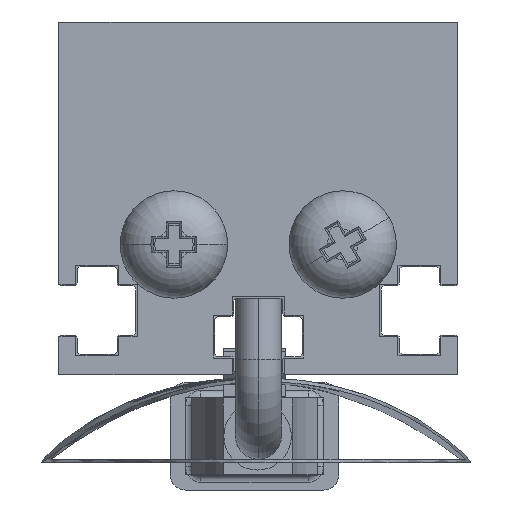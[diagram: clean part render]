
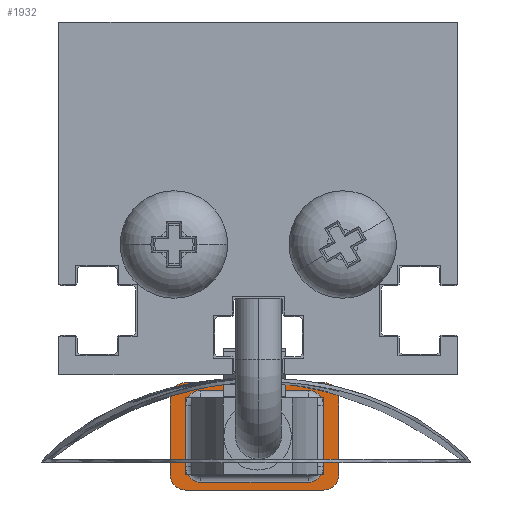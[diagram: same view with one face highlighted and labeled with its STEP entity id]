
A CAD part, left-side view. The second image highlights one B-rep face of the part: STEP entity #1932.
In plain terms, the highlighted planar face has unit normal (-1, 0, 0).
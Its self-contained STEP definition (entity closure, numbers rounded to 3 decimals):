
#1932=ADVANCED_FACE('NONE',(#4039,#4040),#4041,.F.);
#4039=FACE_OUTER_BOUND('',#6624,.T.);
#4040=FACE_BOUND('',#6625,.T.);
#4041=PLANE('',#6626);
#6624=EDGE_LOOP('',(#12249,#12250,#12251,#12252,#12253,#12254,#12255,#12256,#12257,#12258,#12259,#12260));
#6625=EDGE_LOOP('',(#12261,#12262,#12263,#12264,#12265,#12266,#12267,#12268));
#6626=AXIS2_PLACEMENT_3D('',#12269,#12270,#12271);
#12249=ORIENTED_EDGE('',*,*,#17519,.T.);
#12250=ORIENTED_EDGE('',*,*,#17321,.T.);
#12251=ORIENTED_EDGE('',*,*,#17527,.F.);
#12252=ORIENTED_EDGE('',*,*,#17316,.T.);
#12253=ORIENTED_EDGE('',*,*,#17540,.F.);
#12254=ORIENTED_EDGE('',*,*,#17363,.T.);
#12255=ORIENTED_EDGE('',*,*,#17538,.F.);
#12256=ORIENTED_EDGE('',*,*,#17372,.F.);
#12257=ORIENTED_EDGE('',*,*,#17522,.F.);
#12258=ORIENTED_EDGE('',*,*,#17313,.T.);
#12259=ORIENTED_EDGE('',*,*,#17530,.T.);
#12260=ORIENTED_EDGE('',*,*,#17308,.T.);
#12261=ORIENTED_EDGE('',*,*,#17337,.F.);
#12262=ORIENTED_EDGE('',*,*,#17327,.T.);
#12263=ORIENTED_EDGE('',*,*,#17340,.F.);
#12264=ORIENTED_EDGE('',*,*,#17348,.T.);
#12265=ORIENTED_EDGE('',*,*,#17356,.F.);
#12266=ORIENTED_EDGE('',*,*,#17359,.T.);
#12267=ORIENTED_EDGE('',*,*,#17353,.F.);
#12268=ORIENTED_EDGE('',*,*,#17345,.T.);
#12269=CARTESIAN_POINT('',(11.0,9.5,3.5));
#12270=DIRECTION('',(1.0,0.0,0.0));
#12271=DIRECTION('',(0.0,1.0,0.0));
#17308=EDGE_CURVE('NONE',#21365,#21363,#21366,.T.);
#17313=EDGE_CURVE('NONE',#21374,#21372,#21375,.T.);
#17316=EDGE_CURVE('NONE',#21378,#21379,#21380,.T.);
#17321=EDGE_CURVE('NONE',#21387,#21388,#21389,.T.);
#17327=EDGE_CURVE('NONE',#21399,#21397,#21400,.T.);
#17337=EDGE_CURVE('NONE',#21399,#21413,#21417,.T.);
#17340=EDGE_CURVE('NONE',#21420,#21397,#21422,.T.);
#17345=EDGE_CURVE('NONE',#21425,#21413,#21429,.T.);
#17348=EDGE_CURVE('NONE',#21420,#21432,#21434,.T.);
#17353=EDGE_CURVE('NONE',#21425,#21437,#21441,.T.);
#17356=EDGE_CURVE('NONE',#21444,#21432,#21446,.T.);
#17359=EDGE_CURVE('NONE',#21444,#21437,#21449,.T.);
#17363=EDGE_CURVE('NONE',#21455,#21452,#21456,.T.);
#17372=EDGE_CURVE('NONE',#21470,#21463,#21472,.T.);
#17519=EDGE_CURVE('NONE',#21363,#21387,#21709,.T.);
#17522=EDGE_CURVE('NONE',#21374,#21470,#21712,.T.);
#17527=EDGE_CURVE('NONE',#21378,#21388,#21717,.T.);
#17530=EDGE_CURVE('NONE',#21372,#21365,#21720,.T.);
#17538=EDGE_CURVE('NONE',#21463,#21452,#21728,.T.);
#17540=EDGE_CURVE('NONE',#21455,#21379,#21730,.T.);
#21363=VERTEX_POINT('NONE',#27513);
#21365=VERTEX_POINT('NONE',#27516);
#21366=CIRCLE('',#27517,1.0);
#21372=VERTEX_POINT('NONE',#27524);
#21374=VERTEX_POINT('NONE',#27527);
#21375=CIRCLE('',#27528,1.0);
#21378=VERTEX_POINT('NONE',#27532);
#21379=VERTEX_POINT('NONE',#27533);
#21380=CIRCLE('',#27534,1.0);
#21387=VERTEX_POINT('NONE',#27543);
#21388=VERTEX_POINT('NONE',#27544);
#21389=CIRCLE('',#27545,1.0);
#21397=VERTEX_POINT('NONE',#27555);
#21399=VERTEX_POINT('NONE',#27557);
#21400=LINE('',#27558,#27559);
#21413=VERTEX_POINT('NONE',#27575);
#21417=CIRCLE('',#27579,1.0);
#21420=VERTEX_POINT('NONE',#27582);
#21422=CIRCLE('',#27584,1.0);
#21425=VERTEX_POINT('NONE',#27587);
#21429=LINE('',#27592,#27593);
#21432=VERTEX_POINT('NONE',#27596);
#21434=LINE('',#27598,#27599);
#21437=VERTEX_POINT('NONE',#27603);
#21441=CIRCLE('',#27607,1.0);
#21444=VERTEX_POINT('NONE',#27610);
#21446=CIRCLE('',#27612,1.0);
#21449=LINE('',#27615,#27616);
#21452=VERTEX_POINT('NONE',#27620);
#21455=VERTEX_POINT('NONE',#27624);
#21456=LINE('',#27625,#27626);
#21463=VERTEX_POINT('NONE',#27636);
#21470=VERTEX_POINT('NONE',#27646);
#21472=LINE('',#27649,#27650);
#21709=LINE('',#28008,#28009);
#21712=LINE('',#28013,#28014);
#21717=LINE('',#28021,#28022);
#21720=LINE('',#28026,#28027);
#21728=LINE('',#28038,#28039);
#21730=LINE('',#28041,#28042);
#27513=CARTESIAN_POINT('',(11.0,8.5,-3.5));
#27516=CARTESIAN_POINT('',(11.0,9.5,-2.5));
#27517=AXIS2_PLACEMENT_3D('',#36029,#36030,#36031);
#27524=CARTESIAN_POINT('',(11.0,9.5,2.5));
#27527=CARTESIAN_POINT('',(11.0,8.5,3.5));
#27528=AXIS2_PLACEMENT_3D('',#36037,#36038,#36039);
#27532=CARTESIAN_POINT('',(11.0,-1.5,2.5));
#27533=CARTESIAN_POINT('',(11.0,-0.5,3.5));
#27534=AXIS2_PLACEMENT_3D('',#36041,#36042,#36043);
#27543=CARTESIAN_POINT('',(11.0,-0.5,-3.5));
#27544=CARTESIAN_POINT('',(11.0,-1.5,-2.5));
#27545=AXIS2_PLACEMENT_3D('',#36049,#36050,#36051);
#27555=CARTESIAN_POINT('',(11.0,0.5,3.0));
#27557=CARTESIAN_POINT('',(11.0,7.5,3.0));
#27558=CARTESIAN_POINT('',(11.0,9.5,3.0));
#27559=VECTOR('',#36060,1000.0);
#27575=CARTESIAN_POINT('',(11.0,8.5,2.0));
#27579=AXIS2_PLACEMENT_3D('',#36079,#36080,#36081);
#27582=CARTESIAN_POINT('',(11.0,-0.5,2.0));
#27584=AXIS2_PLACEMENT_3D('',#36085,#36086,#36087);
#27587=CARTESIAN_POINT('',(11.0,8.5,-2.0));
#27592=CARTESIAN_POINT('',(11.0,8.5,2.5));
#27593=VECTOR('',#36095,1000.0);
#27596=CARTESIAN_POINT('',(11.0,-0.5,-2.0));
#27598=CARTESIAN_POINT('',(11.0,-0.5,-2.5));
#27599=VECTOR('',#36099,1000.0);
#27603=CARTESIAN_POINT('',(11.0,7.5,-3.0));
#27607=AXIS2_PLACEMENT_3D('',#36107,#36108,#36109);
#27610=CARTESIAN_POINT('',(11.0,0.5,-3.0));
#27612=AXIS2_PLACEMENT_3D('',#36113,#36114,#36115);
#27615=CARTESIAN_POINT('',(11.0,8.0,-3.0));
#27616=VECTOR('',#36119,1000.0);
#27620=CARTESIAN_POINT('',(11.0,3.0,4.0));
#27624=CARTESIAN_POINT('',(11.0,3.0,3.5));
#27625=CARTESIAN_POINT('',(11.0,3.0,4.0));
#27626=VECTOR('',#36122,1000.0);
#27636=CARTESIAN_POINT('',(11.0,5.0,4.0));
#27646=CARTESIAN_POINT('',(11.0,5.0,3.5));
#27649=CARTESIAN_POINT('',(11.0,5.0,4.0));
#27650=VECTOR('',#36130,1000.0);
#28008=CARTESIAN_POINT('',(11.0,9.5,-3.5));
#28009=VECTOR('',#36252,1000.0);
#28013=CARTESIAN_POINT('',(11.0,9.5,3.5));
#28014=VECTOR('',#36254,1000.0);
#28021=CARTESIAN_POINT('',(11.0,-1.5,3.5));
#28022=VECTOR('',#36257,1000.0);
#28026=CARTESIAN_POINT('',(11.0,9.5,3.5));
#28027=VECTOR('',#36259,1000.0);
#28038=CARTESIAN_POINT('',(11.0,5.0,4.0));
#28039=VECTOR('',#36263,1000.0);
#28041=CARTESIAN_POINT('',(11.0,9.5,3.5));
#28042=VECTOR('',#36264,1000.0);
#36029=CARTESIAN_POINT('',(11.0,8.5,-2.5));
#36030=DIRECTION('',(-1.0,0.0,0.0));
#36031=DIRECTION('',(0.0,0.0,-1.0));
#36037=CARTESIAN_POINT('',(11.0,8.5,2.5));
#36038=DIRECTION('',(-1.0,0.0,0.0));
#36039=DIRECTION('',(0.0,0.0,-1.0));
#36041=CARTESIAN_POINT('',(11.0,-0.5,2.5));
#36042=DIRECTION('',(-1.0,0.0,0.0));
#36043=DIRECTION('',(0.0,0.0,-1.0));
#36049=CARTESIAN_POINT('',(11.0,-0.5,-2.5));
#36050=DIRECTION('',(-1.0,0.0,0.0));
#36051=DIRECTION('',(0.0,0.0,-1.0));
#36060=DIRECTION('',(0.0,-1.0,0.0));
#36079=CARTESIAN_POINT('',(11.0,7.5,2.0));
#36080=DIRECTION('',(-1.0,0.0,0.0));
#36081=DIRECTION('',(0.0,0.0,-1.0));
#36085=CARTESIAN_POINT('',(11.0,0.5,2.0));
#36086=DIRECTION('',(-1.0,0.0,0.0));
#36087=DIRECTION('',(0.0,0.0,-1.0));
#36095=DIRECTION('',(0.0,0.0,1.0));
#36099=DIRECTION('',(0.0,0.0,-1.0));
#36107=CARTESIAN_POINT('',(11.0,7.5,-2.0));
#36108=DIRECTION('',(-1.0,0.0,0.0));
#36109=DIRECTION('',(0.0,0.0,-1.0));
#36113=CARTESIAN_POINT('',(11.0,0.5,-2.0));
#36114=DIRECTION('',(-1.0,0.0,0.0));
#36115=DIRECTION('',(0.0,0.0,-1.0));
#36119=DIRECTION('',(0.0,1.0,0.0));
#36122=DIRECTION('',(0.0,0.0,1.0));
#36130=DIRECTION('',(0.0,0.0,1.0));
#36252=DIRECTION('',(0.0,-1.0,0.0));
#36254=DIRECTION('',(0.0,-1.0,0.0));
#36257=DIRECTION('',(0.0,0.0,-1.0));
#36259=DIRECTION('',(0.0,0.0,-1.0));
#36263=DIRECTION('',(0.0,-1.0,0.0));
#36264=DIRECTION('',(0.0,-1.0,0.0));
